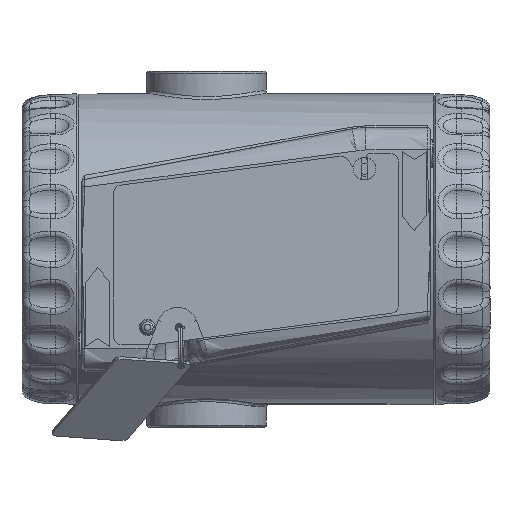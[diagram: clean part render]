
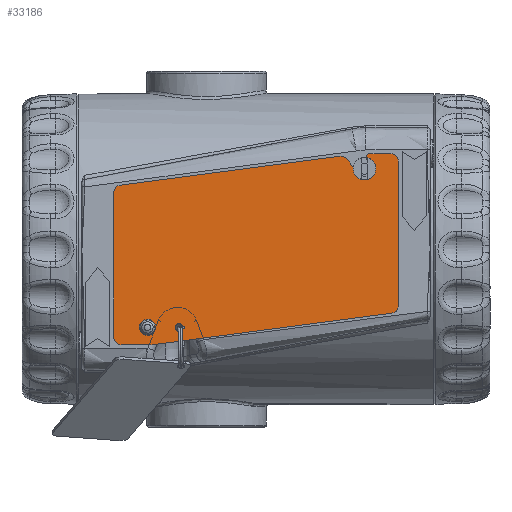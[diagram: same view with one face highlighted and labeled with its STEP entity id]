
A CAD part, left-side view. The second image highlights one B-rep face of the part: STEP entity #33186.
In plain terms, the highlighted planar face has unit normal (-1, 0, 0) as drawn and (0, 0, 1) by its records, which use the part's own axes.
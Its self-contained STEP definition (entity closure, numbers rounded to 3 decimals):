
#2532=FACE_BOUND('',#10668,.T.);
#2533=FACE_BOUND('',#10669,.T.);
#3062=PLANE('',#37538);
#4561=LINE('',#77192,#6101);
#4565=LINE('',#77204,#6105);
#4569=LINE('',#77216,#6109);
#4573=LINE('',#77228,#6113);
#4577=LINE('',#77240,#6117);
#4580=LINE('',#77246,#6120);
#4584=LINE('',#77258,#6124);
#4588=LINE('',#77269,#6128);
#6101=VECTOR('',#46633,10.);
#6105=VECTOR('',#46645,10.);
#6109=VECTOR('',#46657,10.);
#6113=VECTOR('',#46669,10.);
#6117=VECTOR('',#46681,10.);
#6120=VECTOR('',#46686,10.);
#6124=VECTOR('',#46698,10.);
#6128=VECTOR('',#46710,10.);
#8567=FACE_OUTER_BOUND('',#10667,.T.);
#10667=EDGE_LOOP('',(#30724,#30725,#30726,#30727,#30728,#30729,#30730,#30731,
#30732,#30733,#30734,#30735,#30736,#30737,#30738));
#10668=EDGE_LOOP('',(#30739));
#10669=EDGE_LOOP('',(#30740));
#12893=CIRCLE('',#37504,1.35);
#12895=CIRCLE('',#37507,1.);
#12896=CIRCLE('',#37509,2.);
#12898=CIRCLE('',#37513,2.);
#12900=CIRCLE('',#37517,1.);
#12902=CIRCLE('',#37521,2.);
#12904=CIRCLE('',#37525,2.);
#12906=CIRCLE('',#37530,2.);
#12908=CIRCLE('',#37534,2.);
#15942=VERTEX_POINT('',#77172);
#15944=VERTEX_POINT('',#77178);
#15945=VERTEX_POINT('',#77182);
#15946=VERTEX_POINT('',#77183);
#15949=VERTEX_POINT('',#77191);
#15951=VERTEX_POINT('',#77197);
#15953=VERTEX_POINT('',#77203);
#15955=VERTEX_POINT('',#77209);
#15957=VERTEX_POINT('',#77215);
#15959=VERTEX_POINT('',#77221);
#15961=VERTEX_POINT('',#77227);
#15963=VERTEX_POINT('',#77233);
#15965=VERTEX_POINT('',#77239);
#15967=VERTEX_POINT('',#77245);
#15969=VERTEX_POINT('',#77251);
#15971=VERTEX_POINT('',#77257);
#15973=VERTEX_POINT('',#77263);
#20860=EDGE_CURVE('',#15942,#15942,#12893,.T.);
#20863=EDGE_CURVE('',#15944,#15944,#12895,.T.);
#20864=EDGE_CURVE('',#15945,#15946,#12896,.T.);
#20868=EDGE_CURVE('',#15946,#15949,#4561,.T.);
#20871=EDGE_CURVE('',#15949,#15951,#12898,.T.);
#20874=EDGE_CURVE('',#15951,#15953,#4565,.T.);
#20877=EDGE_CURVE('',#15953,#15955,#12900,.T.);
#20880=EDGE_CURVE('',#15955,#15957,#4569,.T.);
#20883=EDGE_CURVE('',#15957,#15959,#12902,.T.);
#20886=EDGE_CURVE('',#15959,#15961,#4573,.T.);
#20889=EDGE_CURVE('',#15961,#15963,#12904,.T.);
#20892=EDGE_CURVE('',#15963,#15965,#4577,.T.);
#20895=EDGE_CURVE('',#15965,#15967,#4580,.T.);
#20898=EDGE_CURVE('',#15967,#15969,#12906,.T.);
#20901=EDGE_CURVE('',#15969,#15971,#4584,.T.);
#20904=EDGE_CURVE('',#15971,#15973,#12908,.T.);
#20907=EDGE_CURVE('',#15973,#15945,#4588,.T.);
#30724=ORIENTED_EDGE('',*,*,#20864,.F.);
#30725=ORIENTED_EDGE('',*,*,#20907,.F.);
#30726=ORIENTED_EDGE('',*,*,#20904,.F.);
#30727=ORIENTED_EDGE('',*,*,#20901,.F.);
#30728=ORIENTED_EDGE('',*,*,#20898,.F.);
#30729=ORIENTED_EDGE('',*,*,#20895,.F.);
#30730=ORIENTED_EDGE('',*,*,#20892,.F.);
#30731=ORIENTED_EDGE('',*,*,#20889,.F.);
#30732=ORIENTED_EDGE('',*,*,#20886,.F.);
#30733=ORIENTED_EDGE('',*,*,#20883,.F.);
#30734=ORIENTED_EDGE('',*,*,#20880,.F.);
#30735=ORIENTED_EDGE('',*,*,#20877,.F.);
#30736=ORIENTED_EDGE('',*,*,#20874,.F.);
#30737=ORIENTED_EDGE('',*,*,#20871,.F.);
#30738=ORIENTED_EDGE('',*,*,#20868,.F.);
#30739=ORIENTED_EDGE('',*,*,#20860,.T.);
#30740=ORIENTED_EDGE('',*,*,#20863,.T.);
#33186=ADVANCED_FACE('',(#8567,#2532,#2533),#3062,.T.);
#37504=AXIS2_PLACEMENT_3D('',#77174,#46614,#46615);
#37507=AXIS2_PLACEMENT_3D('',#77180,#46621,#46622);
#37509=AXIS2_PLACEMENT_3D('',#77184,#46625,#46626);
#37513=AXIS2_PLACEMENT_3D('',#77198,#46638,#46639);
#37517=AXIS2_PLACEMENT_3D('',#77210,#46650,#46651);
#37521=AXIS2_PLACEMENT_3D('',#77222,#46662,#46663);
#37525=AXIS2_PLACEMENT_3D('',#77234,#46674,#46675);
#37530=AXIS2_PLACEMENT_3D('',#77252,#46691,#46692);
#37534=AXIS2_PLACEMENT_3D('',#77264,#46703,#46704);
#37538=AXIS2_PLACEMENT_3D('',#77272,#46714,#46715);
#46614=DIRECTION('center_axis',(0.,0.,-1.));
#46615=DIRECTION('ref_axis',(-1.,0.,0.));
#46621=DIRECTION('center_axis',(0.,0.,-1.));
#46622=DIRECTION('ref_axis',(-1.,0.,0.));
#46625=DIRECTION('center_axis',(0.,0.,-1.));
#46626=DIRECTION('ref_axis',(0.766,0.643,0.));
#46633=DIRECTION('',(0.643,-0.766,0.));
#46638=DIRECTION('center_axis',(0.,0.,1.));
#46639=DIRECTION('ref_axis',(0.766,0.643,0.));
#46645=DIRECTION('',(-0.643,0.766,0.));
#46650=DIRECTION('center_axis',(0.,0.,-1.));
#46651=DIRECTION('ref_axis',(0.,1.,0.));
#46657=DIRECTION('',(1.,0.,0.));
#46662=DIRECTION('center_axis',(0.,0.,-1.));
#46663=DIRECTION('ref_axis',(1.,0.,0.));
#46669=DIRECTION('',(0.,-1.,0.));
#46674=DIRECTION('center_axis',(0.,0.,-1.));
#46675=DIRECTION('ref_axis',(0.131,-0.991,0.));
#46681=DIRECTION('',(-0.991,-0.131,0.));
#46686=DIRECTION('',(-1.,0.,0.));
#46691=DIRECTION('center_axis',(0.,0.,-1.));
#46692=DIRECTION('ref_axis',(-1.,0.,0.));
#46698=DIRECTION('',(0.,1.,0.));
#46703=DIRECTION('center_axis',(0.,0.,-1.));
#46704=DIRECTION('ref_axis',(-0.131,0.991,0.));
#46710=DIRECTION('',(0.991,0.131,0.));
#46714=DIRECTION('center_axis',(0.,0.,1.));
#46715=DIRECTION('ref_axis',(1.,0.,0.));
#77172=CARTESIAN_POINT('',(10.35,4.599,0.7));
#77174=CARTESIAN_POINT('Origin',(9.,4.599,0.7));
#77178=CARTESIAN_POINT('',(18.4,4.599,0.7));
#77180=CARTESIAN_POINT('Origin',(17.4,4.599,0.7));
#77182=CARTESIAN_POINT('',(60.389,50.327,0.7));
#77183=CARTESIAN_POINT('',(62.182,49.63,0.7));
#77184=CARTESIAN_POINT('Origin',(60.65,48.344,0.7));
#77191=CARTESIAN_POINT('',(65.468,45.714,0.7));
#77192=CARTESIAN_POINT('',(65.468,45.714,0.7));
#77197=CARTESIAN_POINT('',(68.532,48.286,0.7));
#77198=CARTESIAN_POINT('Origin',(67.,47.,0.7));
#77203=CARTESIAN_POINT('',(67.633,49.357,0.7));
#77204=CARTESIAN_POINT('',(67.633,49.357,0.7));
#77209=CARTESIAN_POINT('',(68.399,51.,0.7));
#77210=CARTESIAN_POINT('Origin',(68.399,50.,0.7));
#77215=CARTESIAN_POINT('',(74.,51.,0.7));
#77216=CARTESIAN_POINT('',(74.,51.,0.7));
#77221=CARTESIAN_POINT('',(76.,49.,0.7));
#77222=CARTESIAN_POINT('Origin',(74.,49.,0.7));
#77227=CARTESIAN_POINT('',(76.,10.377,0.7));
#77228=CARTESIAN_POINT('',(76.,10.377,0.7));
#77233=CARTESIAN_POINT('',(74.261,8.394,0.7));
#77234=CARTESIAN_POINT('Origin',(74.,10.377,0.7));
#77239=CARTESIAN_POINT('',(10.5,0.,0.7));
#77240=CARTESIAN_POINT('',(10.5,0.,0.7));
#77245=CARTESIAN_POINT('',(2.,0.,0.7));
#77246=CARTESIAN_POINT('',(2.,0.,0.7));
#77251=CARTESIAN_POINT('',(0.,2.,0.7));
#77252=CARTESIAN_POINT('Origin',(2.,2.,0.7));
#77257=CARTESIAN_POINT('',(0.,40.623,0.7));
#77258=CARTESIAN_POINT('',(0.,40.623,0.7));
#77263=CARTESIAN_POINT('',(1.739,42.606,0.7));
#77264=CARTESIAN_POINT('Origin',(2.,40.623,0.7));
#77269=CARTESIAN_POINT('',(60.389,50.327,0.7));
#77272=CARTESIAN_POINT('Origin',(39.077,26.228,0.7));
